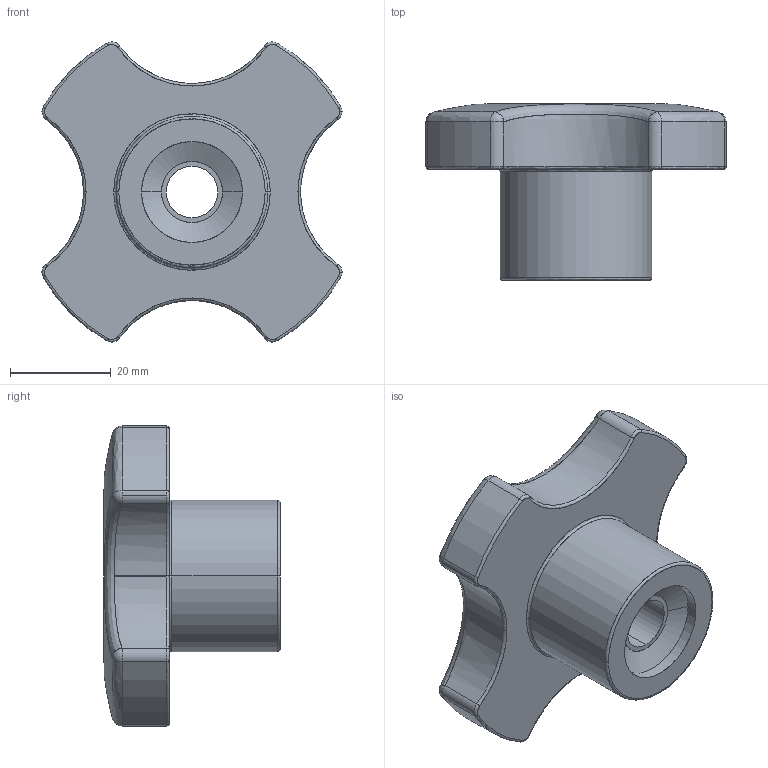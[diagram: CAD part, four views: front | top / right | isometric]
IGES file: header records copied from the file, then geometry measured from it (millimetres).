
Start section: SolidWorks IGES file using analytic representation for surfaces
Global section: file name: C:\Projetos\Componentes\13.Manipulo\13.20004.IGS; native system: SolidWorks 2012; preprocessor: SolidWorks 2012; author: Ricardo; date: 121219.144337; units: millimetre
Bounding box: 59.51 x 35 x 59.51 mm (x, y, z)
Surface area: 10819 mm2 (no closed solid volume)
Topology: 0 solids, 0 shells, 77 faces, 1016 edges, 1012 vertices
Faces by surface type: revolution 39, bspline 38
